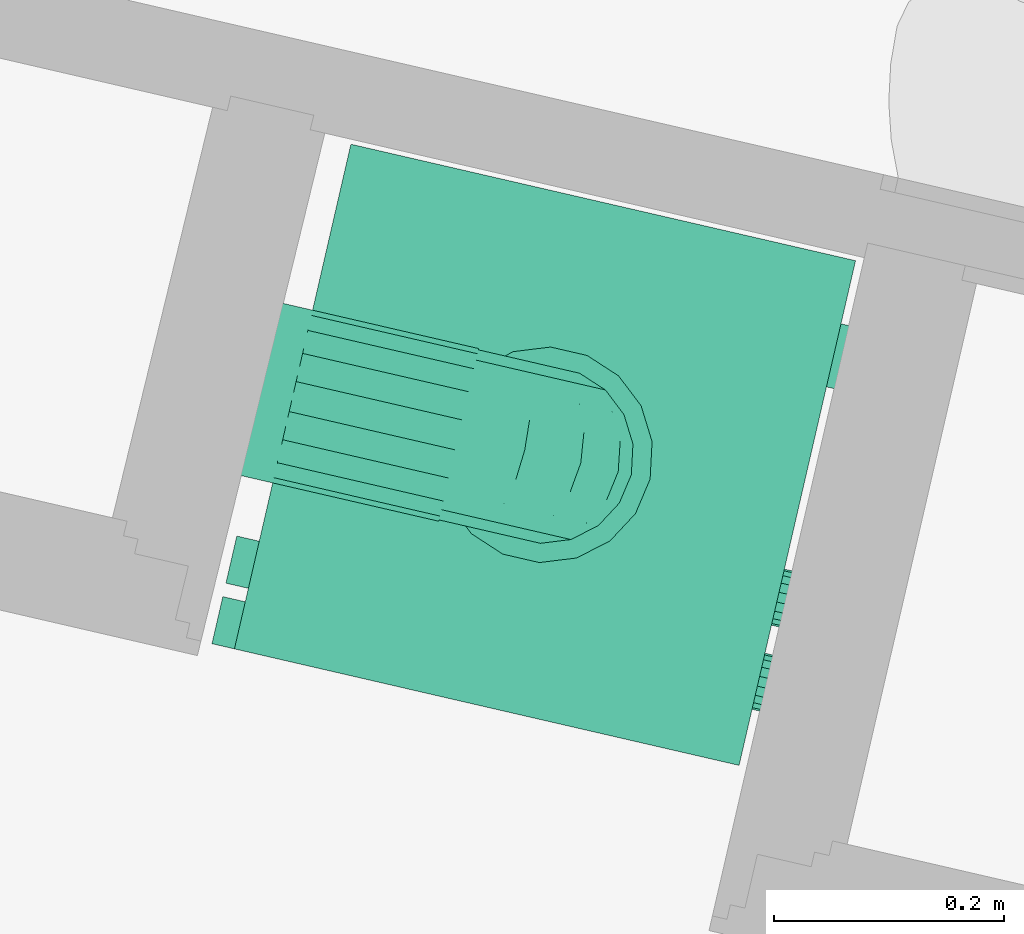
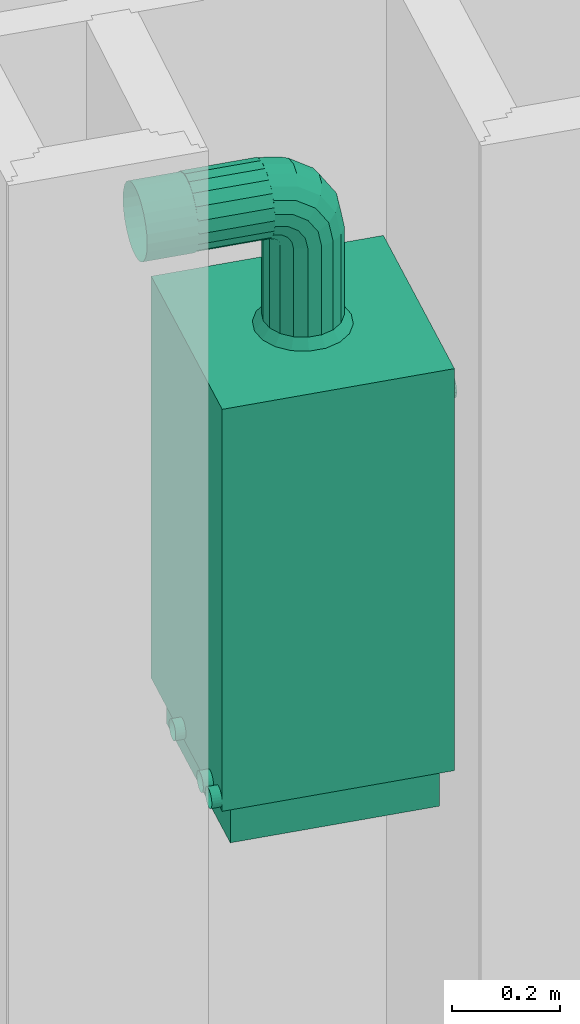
# One storey, part 97 of 119: 1 energy conversion device.
"""IFC2X3 building model written with IfcOpenShell, lengths in metres."""

from ifc_helpers import new_model, entity, si_unit, converted_unit, derived_unit, money_unit, direction, frame, origin_with_axes, place, context, subcontext, project, spatial, open_shell, faceted_brep, surface_model, source, transform, mapped, type_object, element, save


model = new_model("IFC2X3")

# Units and contexts
model_context = context("Model", 3, precision=1e-05, world=origin_with_axes(), true_north=direction((0.0, 1.0)))
body_context = subcontext(model_context, "Body", "Model", "MODEL_VIEW")
ifc_project = project(units=[si_unit("LENGTHUNIT", "METRE"), si_unit("AREAUNIT", "SQUARE_METRE"), si_unit("VOLUMEUNIT", "CUBIC_METRE"), converted_unit("PLANEANGLEUNIT", "DEGREE", entity("IfcPlaneAngleMeasure", 0.0174532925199), si_unit("PLANEANGLEUNIT", "RADIAN"), dimensions=[0, 0, 0, 0, 0, 0, 0]), si_unit("SOLIDANGLEUNIT", "STERADIAN"), money_unit("EUR"), converted_unit("TIMEUNIT", "Year", entity("IfcTimeMeasure", 31556926.0), si_unit("TIMEUNIT", "SECOND"), dimensions=[0, 0, 1, 0, 0, 0, 0]), si_unit("MASSUNIT", "GRAM", prefix="KILO"), si_unit("THERMODYNAMICTEMPERATUREUNIT", "DEGREE_CELSIUS"), si_unit("LUMINOUSINTENSITYUNIT", "LUMEN"), si_unit("ENERGYUNIT", "JOULE", prefix="MEGA"), derived_unit("THERMALCONDUCTANCEUNIT", [(si_unit("POWERUNIT", "WATT"), 1), (si_unit("LENGTHUNIT", "METRE"), -1), (si_unit("THERMODYNAMICTEMPERATUREUNIT", "KELVIN"), -1)]), derived_unit("SPECIFICHEATCAPACITYUNIT", [(si_unit("ENERGYUNIT", "JOULE"), 1), (si_unit("MASSUNIT", "GRAM", prefix="KILO"), -1), (si_unit("THERMODYNAMICTEMPERATUREUNIT", "KELVIN"), -1)]), derived_unit("MASSDENSITYUNIT", [(si_unit("MASSUNIT", "GRAM", prefix="KILO"), 1), (si_unit("VOLUMEUNIT", "CUBIC_METRE"), -1)])], contexts=[model_context])

# Site, building, storey
site_placement = place(None, origin_with_axes())
site = spatial("IfcSite", under=ifc_project, at=site_placement, Name="Site", CompositionType="ELEMENT")
building_placement = place(site_placement, origin_with_axes())
building = spatial("IfcBuilding", under=site, at=building_placement, Name="Bâtiment", CompositionType="ELEMENT")
storey_placement = place(building_placement, origin_with_axes())
storey = spatial("IfcBuildingStorey", under=building, at=storey_placement, Name="Rez-de-chaussée", CompositionType="ELEMENT", Elevation=0.0)

# Energy conversion device
boiler_type = type_object("IfcBoilerType", Name="Chaudière à gaz 23", PredefinedType="WATER")
shared_shape = source(origin_with_axes(), body_context, "Body", "SurfaceModel", [
    surface_model("IfcShellBasedSurfaceModel", [(-0.2, 0.45, 0.090909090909), (-0.2, 0.47, 0.090909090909), (-0.194564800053, 0.47, 0.0916246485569), (-0.194564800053, 0.45, 0.0916246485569), (-0.205435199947, 0.45, 0.0916246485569), (-0.205435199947, 0.47, 0.0916246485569), (-0.1895, 0.47, 0.0937225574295), (-0.1895, 0.45, 0.0937225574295), (-0.2105, 0.45, 0.0937225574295), (-0.2105, 0.47, 0.0937225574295), (-0.185150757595, 0.47, 0.0970598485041), (-0.185150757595, 0.45, 0.0970598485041), (-0.214849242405, 0.45, 0.0970598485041), (-0.214849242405, 0.47, 0.0970598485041), (-0.181813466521, 0.47, 0.101409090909), (-0.181813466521, 0.45, 0.101409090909), (-0.218186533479, 0.45, 0.101409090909), (-0.218186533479, 0.47, 0.101409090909), (-0.179715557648, 0.47, 0.106473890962), (-0.179715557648, 0.45, 0.106473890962), (-0.220284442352, 0.45, 0.106473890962), (-0.220284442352, 0.47, 0.106473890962), (-0.179, 0.47, 0.111909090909), (-0.179, 0.45, 0.111909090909), (-0.221, 0.45, 0.111909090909), (-0.221, 0.47, 0.111909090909), (-0.179715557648, 0.47, 0.117344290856), (-0.179715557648, 0.45, 0.117344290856), (-0.220284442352, 0.45, 0.117344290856), (-0.220284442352, 0.47, 0.117344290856), (-0.181813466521, 0.47, 0.122409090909), (-0.181813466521, 0.45, 0.122409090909), (-0.218186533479, 0.45, 0.122409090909), (-0.218186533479, 0.47, 0.122409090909), (-0.185150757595, 0.47, 0.126758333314), (-0.185150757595, 0.45, 0.126758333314), (-0.214849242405, 0.45, 0.126758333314), (-0.214849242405, 0.47, 0.126758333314), (-0.1895, 0.47, 0.130095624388), (-0.1895, 0.45, 0.130095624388), (-0.2105, 0.45, 0.130095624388), (-0.2105, 0.47, 0.130095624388), (-0.194564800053, 0.47, 0.132193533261), (-0.194564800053, 0.45, 0.132193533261), (-0.205435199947, 0.45, 0.132193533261), (-0.205435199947, 0.47, 0.132193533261), (-0.2, 0.47, 0.132909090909), (-0.2, 0.45, 0.132909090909)], [open_shell([[[0, 1, 2, 3]], [[4, 5, 1, 0]], [[3, 2, 6, 7]], [[8, 9, 5, 4]], [[7, 6, 10, 11]], [[12, 13, 9, 8]], [[11, 10, 14, 15]], [[16, 17, 13, 12]], [[15, 14, 18, 19]], [[20, 21, 17, 16]], [[19, 18, 22, 23]], [[24, 25, 21, 20]], [[23, 22, 26, 27]], [[28, 29, 25, 24]], [[27, 26, 30, 31]], [[32, 33, 29, 28]], [[31, 30, 34, 35]], [[36, 37, 33, 32]], [[35, 34, 38, 39]], [[40, 41, 37, 36]], [[39, 38, 42, 43]], [[44, 45, 41, 40]], [[43, 42, 46, 47]], [[47, 46, 45, 44]]])]),
    surface_model("IfcShellBasedSurfaceModel", [(-0.375, 0.45, 0.090909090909), (-0.375, 0.47, 0.090909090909), (-0.369564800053, 0.47, 0.0916246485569), (-0.369564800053, 0.45, 0.0916246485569), (-0.380435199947, 0.45, 0.0916246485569), (-0.380435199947, 0.47, 0.0916246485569), (-0.3645, 0.47, 0.0937225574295), (-0.3645, 0.45, 0.0937225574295), (-0.3855, 0.45, 0.0937225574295), (-0.3855, 0.47, 0.0937225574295), (-0.360150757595, 0.47, 0.0970598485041), (-0.360150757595, 0.45, 0.0970598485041), (-0.389849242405, 0.45, 0.0970598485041), (-0.389849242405, 0.47, 0.0970598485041), (-0.356813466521, 0.47, 0.101409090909), (-0.356813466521, 0.45, 0.101409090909), (-0.393186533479, 0.45, 0.101409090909), (-0.393186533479, 0.47, 0.101409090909), (-0.354715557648, 0.47, 0.106473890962), (-0.354715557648, 0.45, 0.106473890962), (-0.395284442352, 0.45, 0.106473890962), (-0.395284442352, 0.47, 0.106473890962), (-0.354, 0.47, 0.111909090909), (-0.354, 0.45, 0.111909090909), (-0.396, 0.45, 0.111909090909), (-0.396, 0.47, 0.111909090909), (-0.354715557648, 0.47, 0.117344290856), (-0.354715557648, 0.45, 0.117344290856), (-0.395284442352, 0.45, 0.117344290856), (-0.395284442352, 0.47, 0.117344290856), (-0.356813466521, 0.47, 0.122409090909), (-0.356813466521, 0.45, 0.122409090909), (-0.393186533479, 0.45, 0.122409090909), (-0.393186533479, 0.47, 0.122409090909), (-0.360150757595, 0.47, 0.126758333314), (-0.360150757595, 0.45, 0.126758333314), (-0.389849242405, 0.45, 0.126758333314), (-0.389849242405, 0.47, 0.126758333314), (-0.3645, 0.47, 0.130095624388), (-0.3645, 0.45, 0.130095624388), (-0.3855, 0.45, 0.130095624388), (-0.3855, 0.47, 0.130095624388), (-0.369564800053, 0.47, 0.132193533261), (-0.369564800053, 0.45, 0.132193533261), (-0.380435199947, 0.45, 0.132193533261), (-0.380435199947, 0.47, 0.132193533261), (-0.375, 0.47, 0.132909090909), (-0.375, 0.45, 0.132909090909)], [open_shell([[[0, 1, 2, 3]], [[4, 5, 1, 0]], [[3, 2, 6, 7]], [[8, 9, 5, 4]], [[7, 6, 10, 11]], [[12, 13, 9, 8]], [[11, 10, 14, 15]], [[16, 17, 13, 12]], [[15, 14, 18, 19]], [[20, 21, 17, 16]], [[19, 18, 22, 23]], [[24, 25, 21, 20]], [[23, 22, 26, 27]], [[28, 29, 25, 24]], [[27, 26, 30, 31]], [[32, 33, 29, 28]], [[31, 30, 34, 35]], [[36, 37, 33, 32]], [[35, 34, 38, 39]], [[40, 41, 37, 36]], [[39, 38, 42, 43]], [[44, 45, 41, 40]], [[43, 42, 46, 47]], [[47, 46, 45, 44]]])]),
    surface_model("IfcShellBasedSurfaceModel", [(-0.429, 0.45, 0.090909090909), (-0.429, 0.47, 0.090909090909), (-0.423564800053, 0.47, 0.0916246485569), (-0.423564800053, 0.45, 0.0916246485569), (-0.434435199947, 0.45, 0.0916246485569), (-0.434435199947, 0.47, 0.0916246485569), (-0.4185, 0.47, 0.0937225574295), (-0.4185, 0.45, 0.0937225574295), (-0.4395, 0.45, 0.0937225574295), (-0.4395, 0.47, 0.0937225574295), (-0.414150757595, 0.47, 0.0970598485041), (-0.414150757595, 0.45, 0.0970598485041), (-0.443849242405, 0.45, 0.0970598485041), (-0.443849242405, 0.47, 0.0970598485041), (-0.410813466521, 0.47, 0.101409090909), (-0.410813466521, 0.45, 0.101409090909), (-0.447186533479, 0.45, 0.101409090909), (-0.447186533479, 0.47, 0.101409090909), (-0.408715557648, 0.47, 0.106473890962), (-0.408715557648, 0.45, 0.106473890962), (-0.449284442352, 0.45, 0.106473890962), (-0.449284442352, 0.47, 0.106473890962), (-0.408, 0.47, 0.111909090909), (-0.408, 0.45, 0.111909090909), (-0.45, 0.45, 0.111909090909), (-0.45, 0.47, 0.111909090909), (-0.408715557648, 0.47, 0.117344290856), (-0.408715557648, 0.45, 0.117344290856), (-0.449284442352, 0.45, 0.117344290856), (-0.449284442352, 0.47, 0.117344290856), (-0.410813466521, 0.47, 0.122409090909), (-0.410813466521, 0.45, 0.122409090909), (-0.447186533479, 0.45, 0.122409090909), (-0.447186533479, 0.47, 0.122409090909), (-0.414150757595, 0.47, 0.126758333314), (-0.414150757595, 0.45, 0.126758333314), (-0.443849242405, 0.45, 0.126758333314), (-0.443849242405, 0.47, 0.126758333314), (-0.4185, 0.47, 0.130095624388), (-0.4185, 0.45, 0.130095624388), (-0.4395, 0.45, 0.130095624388), (-0.4395, 0.47, 0.130095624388), (-0.423564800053, 0.47, 0.132193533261), (-0.423564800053, 0.45, 0.132193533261), (-0.434435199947, 0.45, 0.132193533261), (-0.434435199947, 0.47, 0.132193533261), (-0.429, 0.47, 0.132909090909), (-0.429, 0.45, 0.132909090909)], [open_shell([[[0, 1, 2, 3]], [[4, 5, 1, 0]], [[3, 2, 6, 7]], [[8, 9, 5, 4]], [[7, 6, 10, 11]], [[12, 13, 9, 8]], [[11, 10, 14, 15]], [[16, 17, 13, 12]], [[15, 14, 18, 19]], [[20, 21, 17, 16]], [[19, 18, 22, 23]], [[24, 25, 21, 20]], [[23, 22, 26, 27]], [[28, 29, 25, 24]], [[27, 26, 30, 31]], [[32, 33, 29, 28]], [[31, 30, 34, 35]], [[36, 37, 33, 32]], [[35, 34, 38, 39]], [[40, 41, 37, 36]], [[39, 38, 42, 43]], [[44, 45, 41, 40]], [[43, 42, 46, 47]], [[47, 46, 45, 44]]])]),
    surface_model("IfcShellBasedSurfaceModel", [(-0.225, 0.45, 1.218), (-0.225, 0.55, 1.218), (-0.205070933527, 0.55, 1.22062371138), (-0.205070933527, 0.45, 1.22062371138), (-0.244929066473, 0.45, 1.22062371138), (-0.244929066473, 0.55, 1.22062371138), (-0.1865, 0.55, 1.22831604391), (-0.1865, 0.45, 1.22831604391), (-0.2635, 0.45, 1.22831604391), (-0.2635, 0.55, 1.22831604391), (-0.170552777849, 0.55, 1.24055277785), (-0.170552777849, 0.45, 1.24055277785), (-0.279447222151, 0.45, 1.24055277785), (-0.279447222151, 0.55, 1.24055277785), (-0.158316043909, 0.55, 1.2565), (-0.158316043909, 0.45, 1.2565), (-0.291683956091, 0.45, 1.2565), (-0.291683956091, 0.55, 1.2565), (-0.150623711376, 0.55, 1.27507093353), (-0.150623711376, 0.45, 1.27507093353), (-0.299376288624, 0.45, 1.27507093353), (-0.299376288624, 0.55, 1.27507093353), (-0.148, 0.55, 1.295), (-0.148, 0.45, 1.295), (-0.302, 0.45, 1.295), (-0.302, 0.55, 1.295), (-0.150623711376, 0.55, 1.31492906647), (-0.150623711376, 0.45, 1.31492906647), (-0.299376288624, 0.45, 1.31492906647), (-0.299376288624, 0.55, 1.31492906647), (-0.158316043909, 0.55, 1.3335), (-0.158316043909, 0.45, 1.3335), (-0.291683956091, 0.45, 1.3335), (-0.291683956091, 0.55, 1.3335), (-0.170552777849, 0.55, 1.34944722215), (-0.170552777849, 0.45, 1.34944722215), (-0.279447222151, 0.45, 1.34944722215), (-0.279447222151, 0.55, 1.34944722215), (-0.1865, 0.55, 1.36168395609), (-0.1865, 0.45, 1.36168395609), (-0.2635, 0.45, 1.36168395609), (-0.2635, 0.55, 1.36168395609), (-0.205070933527, 0.55, 1.36937628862), (-0.205070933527, 0.45, 1.36937628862), (-0.244929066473, 0.45, 1.36937628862), (-0.244929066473, 0.55, 1.36937628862), (-0.225, 0.55, 1.372), (-0.225, 0.45, 1.372)], [open_shell([[[0, 1, 2, 3]], [[4, 5, 1, 0]], [[3, 2, 6, 7]], [[8, 9, 5, 4]], [[7, 6, 10, 11]], [[12, 13, 9, 8]], [[11, 10, 14, 15]], [[16, 17, 13, 12]], [[15, 14, 18, 19]], [[20, 21, 17, 16]], [[19, 18, 22, 23]], [[24, 25, 21, 20]], [[23, 22, 26, 27]], [[28, 29, 25, 24]], [[27, 26, 30, 31]], [[32, 33, 29, 28]], [[31, 30, 34, 35]], [[36, 37, 33, 32]], [[35, 34, 38, 39]], [[40, 41, 37, 36]], [[39, 38, 42, 43]], [[44, 45, 41, 40]], [[43, 42, 46, 47]], [[47, 46, 45, 44]]])]),
    faceted_brep([(-0.4275, 0.0225, 0.0), (-0.4275, 0.4275, 0.0), (-0.0225, 0.4275, 0.0), (-0.0225, 0.0225, 0.0), (-0.4275, 0.0225, 0.0909090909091), (-0.4275, 0.4275, 0.0909090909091), (-0.0225, 0.4275, 0.0909090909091), (-0.0225, 0.0225, 0.0909090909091)], [[[0, 1, 2, 3]], [[0, 4, 5, 1]], [[1, 5, 6, 2]], [[2, 6, 7, 3]], [[3, 7, 4, 0]], [[7, 6, 5, 4]]]),
    faceted_brep([(0.0, 0.45, 0.0909090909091), (-0.45, 0.45, 0.0909090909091), (-0.45, 0.45, 1.0), (0.0, 0.45, 1.0), (0.0, 0.0, 0.0909090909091), (-0.45, 0.0, 0.0909090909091), (-0.45, 0.0, 0.818181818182), (-0.45, 0.0225, 0.818181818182), (-0.45, 0.0225, 1.0), (0.0, 0.0225, 1.0), (0.0, 0.0225, 0.818181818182), (0.0, 0.0, 0.818181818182)], [[[0, 1, 2, 3]], [[4, 5, 1, 0]], [[1, 5, 6, 7, 8, 2]], [[3, 2, 8, 9]], [[0, 3, 9, 10, 11, 4]], [[11, 6, 5, 4]], [[10, 7, 6, 11]], [[9, 8, 7, 10]]]),
    faceted_brep([(-0.45, 0.0, 0.818181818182), (-0.45, 0.0225, 0.818181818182), (0.0, 0.0225, 0.818181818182), (0.0, 0.0, 0.818181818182), (-0.45, 0.0, 1.0), (-0.45, 0.0225, 1.0), (0.0, 0.0225, 1.0), (0.0, 0.0, 1.0)], [[[0, 1, 2, 3]], [[0, 4, 5, 1]], [[1, 5, 6, 2]], [[2, 6, 7, 3]], [[3, 7, 4, 0]], [[7, 6, 5, 4]]]),
    faceted_brep([(-0.32349231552, 0.0, 0.900540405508), (-0.325, 0.0, 0.909090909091), (-0.32349231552, 0.0, 0.917641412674), (-0.319151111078, 0.0, 0.925160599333), (-0.3125, 0.0, 0.930741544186), (-0.304341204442, 0.0, 0.933711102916), (-0.295658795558, 0.0, 0.933711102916), (-0.2875, 0.0, 0.930741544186), (-0.280848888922, 0.0, 0.925160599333), (-0.27650768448, 0.0, 0.917641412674), (-0.275, 0.0, 0.909090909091), (-0.27650768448, 0.0, 0.900540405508), (-0.280848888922, 0.0, 0.893021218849), (-0.2875, 0.0, 0.887440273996), (-0.295658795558, 0.0, 0.884470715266), (-0.304341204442, 0.0, 0.884470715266), (-0.3125, 0.0, 0.887440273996), (-0.319151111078, 0.0, 0.893021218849), (-0.32349231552, -0.02, 0.900540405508), (-0.325, -0.02, 0.909090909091), (-0.32349231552, -0.02, 0.917641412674), (-0.319151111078, -0.02, 0.925160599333), (-0.3125, -0.02, 0.930741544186), (-0.304341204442, -0.02, 0.933711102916), (-0.295658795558, -0.02, 0.933711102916), (-0.2875, -0.02, 0.930741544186), (-0.280848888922, -0.02, 0.925160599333), (-0.27650768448, -0.02, 0.917641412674), (-0.275, -0.02, 0.909090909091), (-0.27650768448, -0.02, 0.900540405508), (-0.280848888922, -0.02, 0.893021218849), (-0.2875, -0.02, 0.887440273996), (-0.295658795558, -0.02, 0.884470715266), (-0.304341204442, -0.02, 0.884470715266), (-0.3125, -0.02, 0.887440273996), (-0.319151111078, -0.02, 0.893021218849)], [[[0, 1, 2, 3, 4, 5, 6, 7, 8, 9, 10, 11, 12, 13, 14, 15, 16, 17]], [[0, 18, 19, 1]], [[1, 19, 20, 2]], [[2, 20, 21, 3]], [[3, 21, 22, 4]], [[4, 22, 23, 5]], [[5, 23, 24, 6]], [[6, 24, 25, 7]], [[7, 25, 26, 8]], [[8, 26, 27, 9]], [[9, 27, 28, 10]], [[10, 28, 29, 11]], [[11, 29, 30, 12]], [[12, 30, 31, 13]], [[13, 31, 32, 14]], [[14, 32, 33, 15]], [[15, 33, 34, 16]], [[16, 34, 35, 17]], [[17, 35, 18, 0]], [[18, 35, 34, 33, 32, 31, 30, 29, 28, 27, 26, 25, 24, 23, 22, 21, 20, 19]]]),
    faceted_brep([(-0.39849231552, 0.0, 0.900540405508), (-0.4, 0.0, 0.909090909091), (-0.39849231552, 0.0, 0.917641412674), (-0.394151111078, 0.0, 0.925160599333), (-0.3875, 0.0, 0.930741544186), (-0.379341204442, 0.0, 0.933711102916), (-0.370658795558, 0.0, 0.933711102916), (-0.3625, 0.0, 0.930741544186), (-0.355848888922, 0.0, 0.925160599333), (-0.35150768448, 0.0, 0.917641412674), (-0.35, 0.0, 0.909090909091), (-0.35150768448, 0.0, 0.900540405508), (-0.355848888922, 0.0, 0.893021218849), (-0.3625, 0.0, 0.887440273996), (-0.370658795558, 0.0, 0.884470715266), (-0.379341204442, 0.0, 0.884470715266), (-0.3875, 0.0, 0.887440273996), (-0.394151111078, 0.0, 0.893021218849), (-0.39849231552, -0.02, 0.900540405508), (-0.4, -0.02, 0.909090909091), (-0.39849231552, -0.02, 0.917641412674), (-0.394151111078, -0.02, 0.925160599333), (-0.3875, -0.02, 0.930741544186), (-0.379341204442, -0.02, 0.933711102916), (-0.370658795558, -0.02, 0.933711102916), (-0.3625, -0.02, 0.930741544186), (-0.355848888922, -0.02, 0.925160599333), (-0.35150768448, -0.02, 0.917641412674), (-0.35, -0.02, 0.909090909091), (-0.35150768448, -0.02, 0.900540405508), (-0.355848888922, -0.02, 0.893021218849), (-0.3625, -0.02, 0.887440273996), (-0.370658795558, -0.02, 0.884470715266), (-0.379341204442, -0.02, 0.884470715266), (-0.3875, -0.02, 0.887440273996), (-0.394151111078, -0.02, 0.893021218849)], [[[0, 1, 2, 3, 4, 5, 6, 7, 8, 9, 10, 11, 12, 13, 14, 15, 16, 17]], [[0, 18, 19, 1]], [[1, 19, 20, 2]], [[2, 20, 21, 3]], [[3, 21, 22, 4]], [[4, 22, 23, 5]], [[5, 23, 24, 6]], [[6, 24, 25, 7]], [[7, 25, 26, 8]], [[8, 26, 27, 9]], [[9, 27, 28, 10]], [[10, 28, 29, 11]], [[11, 29, 30, 12]], [[12, 30, 31, 13]], [[13, 31, 32, 14]], [[14, 32, 33, 15]], [[15, 33, 34, 16]], [[16, 34, 35, 17]], [[17, 35, 18, 0]], [[18, 35, 34, 33, 32, 31, 30, 29, 28, 27, 26, 25, 24, 23, 22, 21, 20, 19]]]),
    faceted_brep([(-0.1125, 0.0, 0.878787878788), (-0.1125, 0.0, 0.939393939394), (-0.05625, 0.0, 0.939393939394), (-0.05625, 0.0, 0.878787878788), (-0.1125, -0.02, 0.878787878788), (-0.1125, -0.02, 0.939393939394), (-0.05625, -0.02, 0.939393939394), (-0.05625, -0.02, 0.878787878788)], [[[0, 1, 2, 3]], [[0, 4, 5, 1]], [[1, 5, 6, 2]], [[2, 6, 7, 3]], [[3, 7, 4, 0]], [[7, 6, 5, 4]]]),
    surface_model("IfcShellBasedSurfaceModel", [(-0.198664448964, 0.297356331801, 1.22), (-0.198664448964, 0.297356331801, 1.02), (-0.225, 0.302, 1.02), (-0.225, 0.302, 1.22), (-0.175505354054, 0.28398542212, 1.22), (-0.175505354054, 0.28398542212, 1.02), (-0.192935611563, 0.313096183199, 1.0), (-0.225, 0.31875, 1.0), (-0.251335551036, 0.297356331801, 1.02), (-0.251335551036, 0.297356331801, 1.22), (-0.158316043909, 0.2635, 1.22), (-0.158316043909, 0.2635, 1.02), (-0.164738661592, 0.296816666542, 1.0), (-0.257064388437, 0.313096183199, 1.0), (-0.274494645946, 0.28398542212, 1.02), (-0.274494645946, 0.28398542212, 1.22), (-0.149169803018, 0.23837090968, 1.22), (-0.149169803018, 0.23837090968, 1.02), (-0.143810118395, 0.271875, 1.0), (-0.285261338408, 0.296816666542, 1.0), (-0.291683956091, 0.2635, 1.02), (-0.291683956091, 0.2635, 1.22), (-0.149169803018, 0.21162909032, 1.22), (-0.149169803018, 0.21162909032, 1.02), (-0.132674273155, 0.241279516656, 1.0), (-0.306189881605, 0.271875, 1.0), (-0.300830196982, 0.23837090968, 1.02), (-0.300830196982, 0.23837090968, 1.22), (-0.158316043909, 0.1865, 1.22), (-0.158316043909, 0.1865, 1.02), (-0.132674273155, 0.208720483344, 1.0), (-0.317325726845, 0.241279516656, 1.0), (-0.300830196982, 0.21162909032, 1.02), (-0.300830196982, 0.21162909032, 1.22), (-0.175505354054, 0.16601457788, 1.22), (-0.175505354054, 0.16601457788, 1.02), (-0.143810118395, 0.178125, 1.0), (-0.317325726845, 0.208720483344, 1.0), (-0.291683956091, 0.1865, 1.02), (-0.291683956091, 0.1865, 1.22), (-0.198664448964, 0.152643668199, 1.22), (-0.198664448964, 0.152643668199, 1.02), (-0.164738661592, 0.153183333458, 1.0), (-0.306189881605, 0.178125, 1.0), (-0.274494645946, 0.16601457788, 1.02), (-0.274494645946, 0.16601457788, 1.22), (-0.225, 0.148, 1.22), (-0.225, 0.148, 1.02), (-0.192935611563, 0.136903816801, 1.0), (-0.285261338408, 0.153183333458, 1.0), (-0.251335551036, 0.152643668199, 1.02), (-0.251335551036, 0.152643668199, 1.22), (-0.225, 0.13125, 1.0), (-0.257064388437, 0.136903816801, 1.0)], [open_shell([[[0, 1, 2, 3]], [[4, 5, 1, 0]], [[1, 6, 7, 2]], [[3, 2, 8, 9]], [[10, 11, 5, 4]], [[5, 12, 6, 1]], [[2, 7, 13, 8]], [[9, 8, 14, 15]], [[16, 17, 11, 10]], [[11, 18, 12, 5]], [[8, 13, 19, 14]], [[15, 14, 20, 21]], [[22, 23, 17, 16]], [[17, 24, 18, 11]], [[14, 19, 25, 20]], [[21, 20, 26, 27]], [[28, 29, 23, 22]], [[23, 30, 24, 17]], [[20, 25, 31, 26]], [[27, 26, 32, 33]], [[34, 35, 29, 28]], [[29, 36, 30, 23]], [[26, 31, 37, 32]], [[33, 32, 38, 39]], [[40, 41, 35, 34]], [[35, 42, 36, 29]], [[32, 37, 43, 38]], [[39, 38, 44, 45]], [[46, 47, 41, 40]], [[41, 48, 42, 35]], [[38, 43, 49, 44]], [[45, 44, 50, 51]], [[51, 50, 47, 46]], [[47, 52, 48, 41]], [[44, 49, 53, 50]], [[50, 53, 52, 47]]])]),
    faceted_brep([(-0.300830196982, 0.218508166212, 1.2545834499), (-0.300830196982, 0.21162909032, 1.22), (-0.291683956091, 0.1865, 1.22), (-0.291683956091, 0.195291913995, 1.26419993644), (-0.300830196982, 0.243214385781, 1.24434979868), (-0.300830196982, 0.23837090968, 1.22), (-0.291683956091, 0.2635, 1.22), (-0.274494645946, 0.28398542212, 1.22), (-0.251335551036, 0.297356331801, 1.22), (-0.225, 0.302, 1.22), (-0.198664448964, 0.297356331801, 1.22), (-0.175505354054, 0.28398542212, 1.22), (-0.158316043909, 0.2635, 1.22), (-0.149169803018, 0.23837090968, 1.22), (-0.149169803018, 0.21162909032, 1.22), (-0.158316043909, 0.1865, 1.22), (-0.175505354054, 0.16601457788, 1.22), (-0.198664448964, 0.152643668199, 1.22), (-0.225, 0.148, 1.22), (-0.251335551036, 0.152643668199, 1.22), (-0.274494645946, 0.16601457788, 1.22), (-0.274494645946, 0.176365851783, 1.27203936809), (-0.300830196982, 0.238098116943, 1.28390188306), (-0.291683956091, 0.220329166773, 1.30167083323), (-0.300830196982, 0.257007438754, 1.26499256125), (-0.291683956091, 0.266430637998, 1.23473331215), (-0.274494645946, 0.28535670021, 1.2268938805), (-0.251335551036, 0.297709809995, 1.22177705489), (-0.198664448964, 0.297709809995, 1.22177705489), (-0.175505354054, 0.28535670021, 1.2268938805), (-0.158316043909, 0.266430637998, 1.23473331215), (-0.149169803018, 0.243214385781, 1.24434979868), (-0.149169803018, 0.218508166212, 1.2545834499), (-0.158316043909, 0.195291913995, 1.26419993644), (-0.175505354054, 0.176365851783, 1.27203936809), (-0.198664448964, 0.164012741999, 1.2771561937), (-0.225, 0.159722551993, 1.27893324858), (-0.251335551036, 0.164012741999, 1.2771561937), (-0.274494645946, 0.205843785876, 1.31615621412), (-0.291683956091, 0.257800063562, 1.32670808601), (-0.300830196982, 0.267416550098, 1.30349183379), (-0.300830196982, 0.277650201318, 1.27878561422), (-0.291683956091, 0.274776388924, 1.24722361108), (-0.274494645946, 0.289261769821, 1.23273823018), (-0.251335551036, 0.298716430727, 1.22328356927), (-0.198664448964, 0.298716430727, 1.22328356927), (-0.175505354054, 0.289261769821, 1.23273823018), (-0.158316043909, 0.274776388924, 1.24722361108), (-0.149169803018, 0.257007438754, 1.26499256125), (-0.149169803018, 0.238098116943, 1.28390188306), (-0.158316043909, 0.220329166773, 1.30167083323), (-0.175505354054, 0.205843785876, 1.31615621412), (-0.198664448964, 0.196389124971, 1.32561087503), (-0.225, 0.193105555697, 1.3288944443), (-0.251335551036, 0.196389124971, 1.32561087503), (-0.274494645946, 0.249960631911, 1.34563414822), (-0.291683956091, 0.302, 1.3355), (-0.300830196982, 0.302, 1.31037090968), (-0.300830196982, 0.302, 1.28362909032), (-0.291683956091, 0.287266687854, 1.255569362), (-0.274494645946, 0.295106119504, 1.23664329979), (-0.251335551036, 0.300222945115, 1.22429019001), (-0.198664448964, 0.300222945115, 1.22429019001), (-0.175505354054, 0.295106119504, 1.23664329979), (-0.158316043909, 0.287266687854, 1.255569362), (-0.149169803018, 0.277650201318, 1.27878561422), (-0.149169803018, 0.267416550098, 1.30349183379), (-0.158316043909, 0.257800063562, 1.32670808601), (-0.175505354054, 0.249960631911, 1.34563414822), (-0.198664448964, 0.244843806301, 1.357987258), (-0.225, 0.243066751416, 1.36227744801), (-0.251335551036, 0.244843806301, 1.357987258), (-0.274494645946, 0.302, 1.35598542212), (-0.291683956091, 0.302, 1.2585), (-0.251335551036, 0.302, 1.3693563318), (-0.225, 0.302, 1.374), (-0.198664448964, 0.302, 1.3693563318), (-0.175505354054, 0.302, 1.35598542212), (-0.158316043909, 0.302, 1.3355), (-0.149169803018, 0.302, 1.31037090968), (-0.149169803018, 0.302, 1.28362909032), (-0.158316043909, 0.302, 1.2585), (-0.175505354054, 0.302, 1.23801457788), (-0.198664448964, 0.302, 1.2246436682), (-0.251335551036, 0.302, 1.2246436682), (-0.274494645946, 0.302, 1.23801457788)], [[[0, 1, 2, 3]], [[1, 0, 4, 5]], [[2, 1, 5, 6, 7, 8, 9, 10, 11, 12, 13, 14, 15, 16, 17, 18, 19, 20]], [[3, 2, 20, 21]], [[22, 0, 3, 23]], [[0, 22, 24, 4]], [[6, 5, 4, 25]], [[26, 7, 6, 25]], [[7, 26, 27, 8]], [[8, 27, 9]], [[28, 10, 9]], [[10, 28, 29, 11]], [[30, 12, 11, 29]], [[12, 30, 31, 13]], [[32, 14, 13, 31]], [[15, 14, 32, 33]], [[34, 16, 15, 33]], [[17, 16, 34, 35]], [[36, 18, 17, 35]], [[19, 18, 36, 37]], [[21, 20, 19, 37]], [[23, 3, 21, 38]], [[22, 23, 39, 40]], [[24, 22, 40, 41]], [[4, 24, 42, 25]], [[43, 26, 25, 42]], [[26, 43, 44, 27]], [[27, 44, 9]], [[45, 28, 9]], [[28, 45, 46, 29]], [[29, 46, 47, 30]], [[31, 30, 47, 48]], [[49, 32, 31, 48]], [[32, 49, 50, 33]], [[51, 34, 33, 50]], [[35, 34, 51, 52]], [[53, 36, 35, 52]], [[54, 37, 36, 53]], [[38, 21, 37, 54]], [[39, 23, 38, 55]], [[40, 39, 56, 57]], [[41, 40, 57, 58]], [[59, 42, 24, 41]], [[42, 59, 60, 43]], [[43, 60, 61, 44]], [[44, 61, 9]], [[62, 45, 9]], [[45, 62, 63, 46]], [[46, 63, 64, 47]], [[47, 64, 65, 48]], [[66, 49, 48, 65]], [[50, 49, 66, 67]], [[68, 51, 50, 67]], [[52, 51, 68, 69]], [[53, 52, 69, 70]], [[71, 54, 53, 70]], [[55, 38, 54, 71]], [[56, 39, 55, 72]], [[73, 58, 57, 56, 72, 74, 75, 76, 77, 78, 79, 80, 81, 82, 83, 9, 84, 85]], [[59, 41, 58, 73]], [[59, 73, 85, 60]], [[60, 85, 84, 61]], [[61, 84, 9]], [[62, 9, 83]], [[63, 62, 83, 82]], [[63, 82, 81, 64]], [[65, 64, 81, 80]], [[66, 65, 80, 79]], [[67, 66, 79, 78]], [[77, 68, 67, 78]], [[69, 68, 77, 76]], [[75, 70, 69, 76]], [[71, 70, 75, 74]], [[72, 55, 71, 74]]]),
    surface_model("IfcShellBasedSurfaceModel", [(-0.152643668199, 0.45, 1.32333555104), (-0.152643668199, 0.302, 1.32333555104), (-0.148, 0.302, 1.297), (-0.148, 0.45, 1.297), (-0.16601457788, 0.45, 1.34649464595), (-0.16601457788, 0.302, 1.34649464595), (-0.152643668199, 0.302, 1.27066444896), (-0.152643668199, 0.45, 1.27066444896), (-0.1865, 0.45, 1.36368395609), (-0.1865, 0.302, 1.36368395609), (-0.16601457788, 0.302, 1.24750535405), (-0.16601457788, 0.45, 1.24750535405), (-0.21162909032, 0.45, 1.37283019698), (-0.21162909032, 0.302, 1.37283019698), (-0.1865, 0.302, 1.23031604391), (-0.1865, 0.45, 1.23031604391), (-0.23837090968, 0.45, 1.37283019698), (-0.23837090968, 0.302, 1.37283019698), (-0.21162909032, 0.302, 1.22116980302), (-0.21162909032, 0.45, 1.22116980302), (-0.2635, 0.45, 1.36368395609), (-0.2635, 0.302, 1.36368395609), (-0.23837090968, 0.302, 1.22116980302), (-0.23837090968, 0.45, 1.22116980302), (-0.28398542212, 0.45, 1.34649464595), (-0.28398542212, 0.302, 1.34649464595), (-0.2635, 0.302, 1.23031604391), (-0.2635, 0.45, 1.23031604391), (-0.297356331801, 0.45, 1.32333555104), (-0.297356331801, 0.302, 1.32333555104), (-0.28398542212, 0.302, 1.24750535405), (-0.28398542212, 0.45, 1.24750535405), (-0.302, 0.45, 1.297), (-0.302, 0.302, 1.297), (-0.297356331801, 0.302, 1.27066444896), (-0.297356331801, 0.45, 1.27066444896)], [open_shell([[[0, 1, 2, 3]], [[4, 5, 1, 0]], [[3, 2, 6, 7]], [[8, 9, 5, 4]], [[7, 6, 10, 11]], [[12, 13, 9, 8]], [[11, 10, 14, 15]], [[16, 17, 13, 12]], [[15, 14, 18, 19]], [[20, 21, 17, 16]], [[19, 18, 22, 23]], [[24, 25, 21, 20]], [[23, 22, 26, 27]], [[28, 29, 25, 24]], [[27, 26, 30, 31]], [[32, 33, 29, 28]], [[31, 30, 34, 35]], [[35, 34, 33, 32]]])]),
])
energy_conversion_device_placement = place(storey_placement, frame((-12.2661064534, -3.1479817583, 0.9), z_axis=(0.0, 0.0, 1.0), x_axis=(0.224876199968, 0.974387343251, 0.0)))
element("IfcEnergyConversionDevice", 1, at=energy_conversion_device_placement, inside=storey, type_object=boiler_type, Name="MOB-002", context=body_context, shape_type="MappedRepresentation", body=[
    mapped(shared_shape, transform((0.0, 0.0, 0.0))),
])

save(model, "model.ifc")
